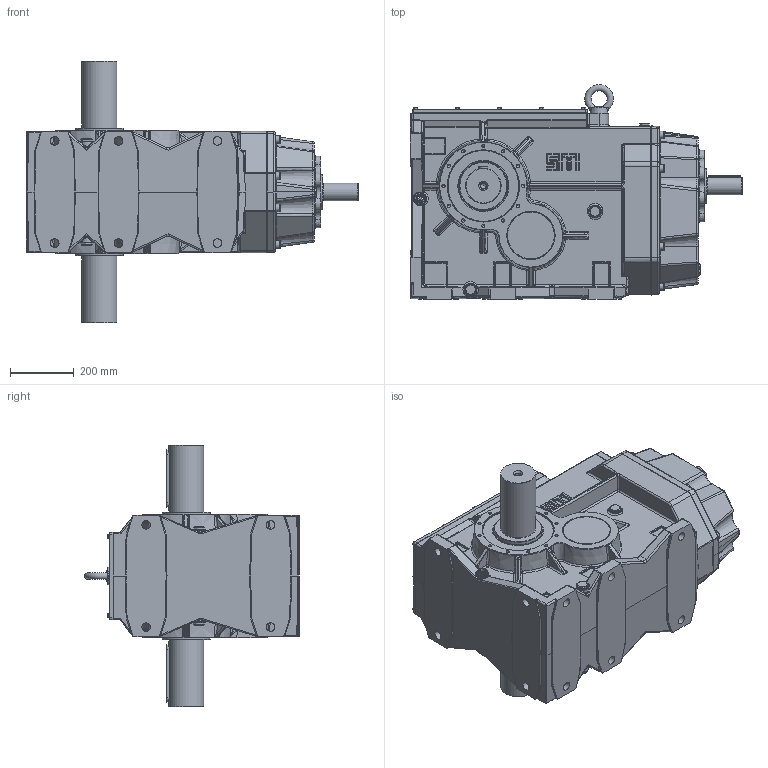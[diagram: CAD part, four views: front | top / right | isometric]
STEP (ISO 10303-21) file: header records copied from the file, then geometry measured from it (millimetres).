
FILE_DESCRIPTION((''),'2;1');
FILE_NAME('O:\Figurini\Figurini BH\3D\200\BH 200 MD.stp','2013-05-27T12:35:10',('d.iannaccio'),(''),'Autodesk Inventor 2012','Autodesk Inventor 2012','');
FILE_SCHEMA(('AUTOMOTIVE_DESIGN { 1 0 10303 214 1 1 1 1 }'));
Length unit declared in the file: millimetre
Products named in the file (1): BH_200 MD
Bounding box: 1040.5 x 672.85 x 820 mm (x, y, z)
Volume: 57876136.9 mm3; surface area: 5082545.5 mm2
Topology: 2 solids, 51 shells, 3549 faces, 8406 edges, 4987 vertices
Faces by surface type: cylinder 1125, plane 993, bspline 647, torus 366, cone 255, sphere 163
Full cylindrical faces by diameter (mm): 2.4 x1, 6.647 x12, 8 x24, 9 x12, 10 x18, 10.106 x26, 10.5 x2, 13 x12, 13.75 x1, 13.835 x9, 16 x8, 17 x10, 17.25 x2, 18 x1, 19.6 x1, 20 x4, 20.752 x2, 21 x2, 24 x8, 24.117 x8, 26.5 x2, 27 x10, 31 x7, 31.9 x1, 40 x1, 45 x1, 55 x1, 62 x1, 64.4 x1, 65 x2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
Entity records: 123482 total; most frequent: CARTESIAN_POINT 44906, DIRECTION 15355, ORIENTED_EDGE 15104, EDGE_CURVE 7552, AXIS2_PLACEMENT_3D 6281, VERTEX_POINT 4732, EDGE_LOOP 4273, STYLED_ITEM 3550
